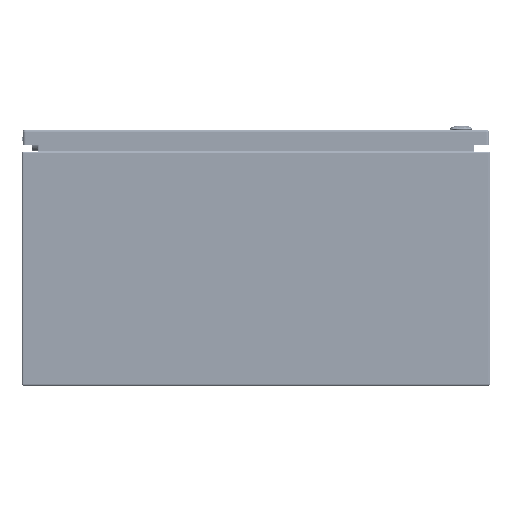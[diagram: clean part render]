
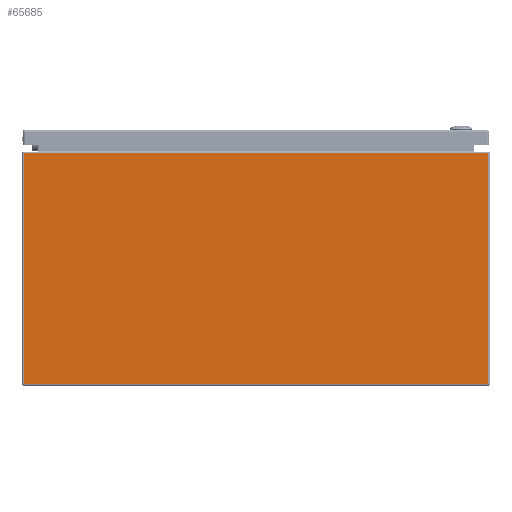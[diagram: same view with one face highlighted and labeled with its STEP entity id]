
A CAD part, front view. The second image highlights one B-rep face of the part: STEP entity #65685.
In plain terms, the highlighted planar face has unit normal (0, -1, 0).
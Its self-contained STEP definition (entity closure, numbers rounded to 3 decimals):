
#6372=LINE('',#92125,#10417);
#6379=LINE('',#92140,#10424);
#6381=LINE('',#92147,#10426);
#6383=LINE('',#92156,#10428);
#10417=VECTOR('',#76521,0.394);
#10424=VECTOR('',#76534,0.394);
#10426=VECTOR('',#76542,0.394);
#10428=VECTOR('',#76554,0.394);
#15513=FACE_OUTER_BOUND('',#19549,.T.);
#19549=EDGE_LOOP('',(#43714,#43715,#43716,#43717));
#26346=VERTEX_POINT('',#92095);
#26353=VERTEX_POINT('',#92121);
#26358=VERTEX_POINT('',#92139);
#26360=VERTEX_POINT('',#92145);
#33067=EDGE_CURVE('',#26346,#26353,#6372,.T.);
#33074=EDGE_CURVE('',#26353,#26358,#6379,.T.);
#33078=EDGE_CURVE('',#26360,#26346,#6381,.T.);
#33083=EDGE_CURVE('',#26360,#26358,#6383,.T.);
#43714=ORIENTED_EDGE('',*,*,#33067,.F.);
#43715=ORIENTED_EDGE('',*,*,#33078,.F.);
#43716=ORIENTED_EDGE('',*,*,#33083,.T.);
#43717=ORIENTED_EDGE('',*,*,#33074,.F.);
#64281=PLANE('',#70618);
#65685=ADVANCED_FACE('',(#15513),#64281,.F.);
#70618=AXIS2_PLACEMENT_3D('',#92167,#76568,#76569);
#76521=DIRECTION('',(1.,0.,0.));
#76534=DIRECTION('',(0.,0.,-1.));
#76542=DIRECTION('',(0.,0.,1.));
#76554=DIRECTION('',(1.,0.,0.));
#76568=DIRECTION('center_axis',(0.,1.,0.));
#76569=DIRECTION('ref_axis',(0.,0.,1.));
#92095=CARTESIAN_POINT('',(-11.916,-15.,11.916));
#92121=CARTESIAN_POINT('',(11.916,-15.,11.916));
#92125=CARTESIAN_POINT('',(5.979,-15.,11.916));
#92139=CARTESIAN_POINT('',(11.916,-15.,0.084));
#92140=CARTESIAN_POINT('',(11.916,-15.,6.));
#92145=CARTESIAN_POINT('',(-11.916,-15.,0.084));
#92147=CARTESIAN_POINT('',(-11.916,-15.,6.));
#92156=CARTESIAN_POINT('',(-5.958,-15.,0.084));
#92167=CARTESIAN_POINT('Origin',(0.,-15.,6.));
